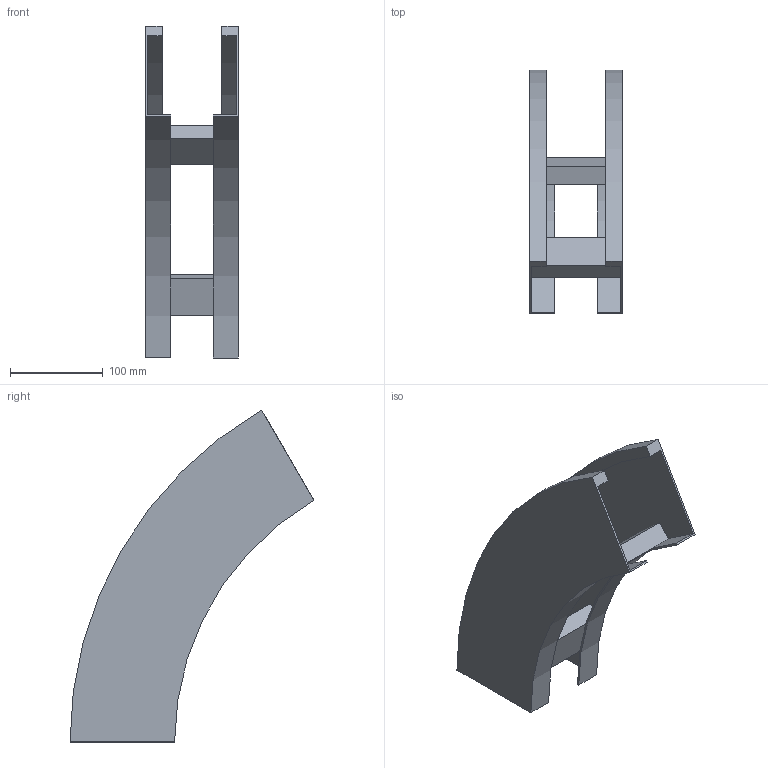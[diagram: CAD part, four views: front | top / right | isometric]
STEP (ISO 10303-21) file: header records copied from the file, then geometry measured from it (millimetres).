
FILE_DESCRIPTION (( 'STEP AP214' ), '1' );
FILE_NAME ('B2_41B3J100.step', '2025-02-21T14:58:42', ( '' ), ( '' ), 'SwSTEP 2.0', 'SolidWorks 2023', '' );
FILE_SCHEMA (( 'AUTOMOTIVE_DESIGN' ));
Length unit declared in the file: millimetre
Products named in the file (3): B2_LONGH.DISCESA_60°_H112.5_R300; TRAVERSINO_100; B2_41B3J100
Assembly tree (4 placements, depth 2):
  B2_41B3J100
    B2_LONGH.DISCESA_60°_H112.5_R300  x2
    TRAVERSINO_100  x2
Bounding box: 100 x 262.5 x 357.24 mm (x, y, z)
Volume: 518382.9 mm3; surface area: 257967.9 mm2
Topology: 4 solids, 4 shells, 32 faces, 72 edges, 48 vertices
Faces by surface type: plane 24, cylinder 8
Entity records: 552 total; most frequent: DIRECTION 90, CARTESIAN_POINT 83, ORIENTED_EDGE 72, EDGE_CURVE 36, AXIS2_PLACEMENT_3D 31, LINE 28, VECTOR 28, VERTEX_POINT 24
